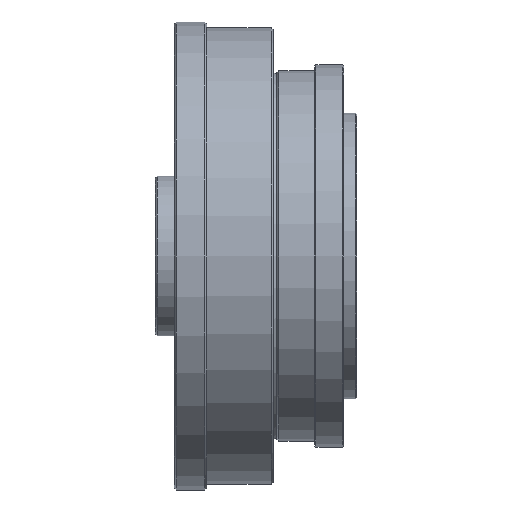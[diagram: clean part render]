
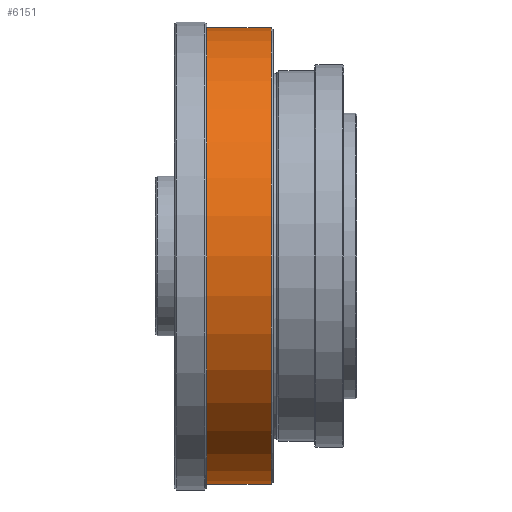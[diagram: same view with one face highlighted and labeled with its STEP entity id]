
A CAD part, front view. The second image highlights one B-rep face of the part: STEP entity #6151.
In plain terms, the highlighted cylindrical face has radius 120 mm (diameter 240 mm), a partial arc.
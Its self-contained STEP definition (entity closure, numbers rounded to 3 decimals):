
#1665 = CARTESIAN_POINT ( 'NONE',  ( 115.8, 0., 0. ) ) ;
#2242 = EDGE_CURVE ( 'NONE', #8553, #12008, #28325, .T. ) ;
#2248 = VECTOR ( 'NONE', #14856, 1000. ) ;
#2952 = AXIS2_PLACEMENT_3D ( 'NONE', #23823, #9858, #26171 ) ;
#4035 = AXIS2_PLACEMENT_3D ( 'NONE', #12377, #28685, #14724 ) ;
#6151 = ADVANCED_FACE ( 'NONE', ( #19010 ), #23782, .T. ) ;
#6402 = DIRECTION ( 'NONE',  ( 1., 0., 0. ) ) ;
#6925 = ORIENTED_EDGE ( 'NONE', *, *, #13603, .T. ) ;
#8553 = VERTEX_POINT ( 'NONE', #17127 ) ;
#9110 = CARTESIAN_POINT ( 'NONE',  ( 12.8, 0., -120. ) ) ;
#9696 = EDGE_CURVE ( 'NONE', #13028, #18236, #24670, .T. ) ;
#9858 = DIRECTION ( 'NONE',  ( 1., 0., 0. ) ) ;
#10943 = EDGE_CURVE ( 'NONE', #8553, #18236, #16928, .T. ) ;
#12008 = VERTEX_POINT ( 'NONE', #9110 ) ;
#12377 = CARTESIAN_POINT ( 'NONE',  ( 51., 0., 0. ) ) ;
#13028 = VERTEX_POINT ( 'NONE', #20736 ) ;
#13603 = EDGE_CURVE ( 'NONE', #12008, #13028, #20799, .T. ) ;
#13943 = ORIENTED_EDGE ( 'NONE', *, *, #10943, .F. ) ;
#14724 = DIRECTION ( 'NONE',  ( 0., 0., -1. ) ) ;
#14856 = DIRECTION ( 'NONE',  ( 1., 0., 0. ) ) ;
#15577 = DIRECTION ( 'NONE',  ( 0., 0., -1. ) ) ;
#15614 = CARTESIAN_POINT ( 'NONE',  ( 115.8, 0., 120. ) ) ;
#16928 = LINE ( 'NONE', #15614, #22365 ) ;
#17127 = CARTESIAN_POINT ( 'NONE',  ( 12.8, 0., 120. ) ) ;
#17919 = DIRECTION ( 'NONE',  ( 1., 0., 0. ) ) ;
#18236 = VERTEX_POINT ( 'NONE', #19504 ) ;
#19010 = FACE_OUTER_BOUND ( 'NONE', #25379, .T. ) ;
#19504 = CARTESIAN_POINT ( 'NONE',  ( 51., 0., 120. ) ) ;
#20736 = CARTESIAN_POINT ( 'NONE',  ( 51., 0., -120. ) ) ;
#20799 = LINE ( 'NONE', #28824, #2248 ) ;
#21978 = ORIENTED_EDGE ( 'NONE', *, *, #2242, .T. ) ;
#22365 = VECTOR ( 'NONE', #6402, 1000. ) ;
#23540 = ORIENTED_EDGE ( 'NONE', *, *, #9696, .T. ) ;
#23782 = CYLINDRICAL_SURFACE ( 'NONE', #29487, 120. ) ;
#23823 = CARTESIAN_POINT ( 'NONE',  ( 12.8, 0., 0. ) ) ;
#24670 = CIRCLE ( 'NONE', #4035, 120. ) ;
#25379 = EDGE_LOOP ( 'NONE', ( #13943, #21978, #6925, #23540 ) ) ;
#26171 = DIRECTION ( 'NONE',  ( 0., 0., 1. ) ) ;
#28325 = CIRCLE ( 'NONE', #2952, 120. ) ;
#28685 = DIRECTION ( 'NONE',  ( -1., 0., 0. ) ) ;
#28824 = CARTESIAN_POINT ( 'NONE',  ( 115.8, 0., -120. ) ) ;
#29487 = AXIS2_PLACEMENT_3D ( 'NONE', #1665, #17919, #15577 ) ;
